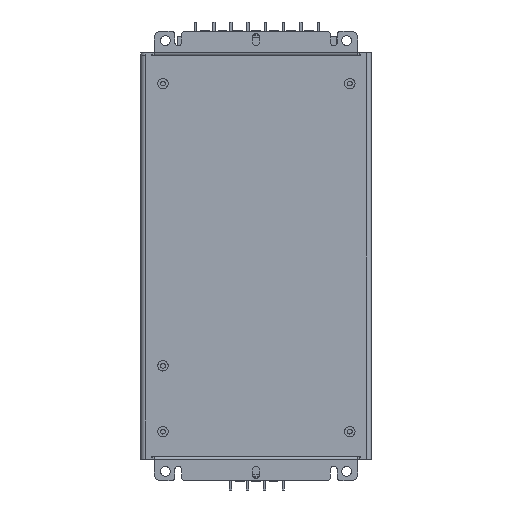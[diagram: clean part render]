
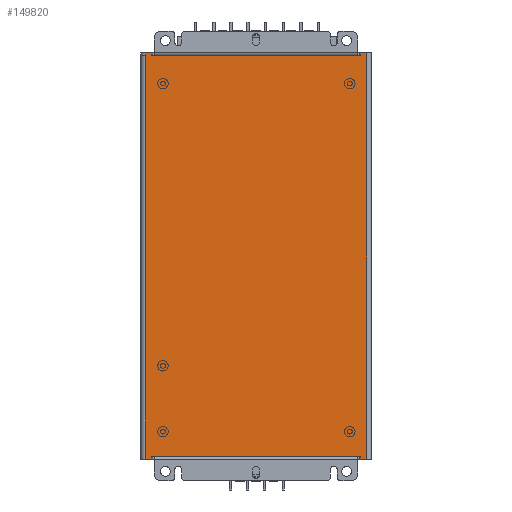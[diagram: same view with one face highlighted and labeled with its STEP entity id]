
A CAD part, front view. The second image highlights one B-rep face of the part: STEP entity #149820.
In plain terms, the highlighted planar face has unit normal (0, -1, 0) as drawn and (1, 0, 0) by its records, which use the part's own axes.
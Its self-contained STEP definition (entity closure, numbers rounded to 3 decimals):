
#147040=CARTESIAN_POINT('',(1801.992,-2342.664,
326.9));
#147050=VERTEX_POINT('',#147040);
#147080=CARTESIAN_POINT('',(1801.992,0.,326.9));
#147090=DIRECTION('',(0.,-1.,0.));
#147100=VECTOR('',#147090,1.);
#147110=LINE('',#147080,#147100);
#147120=CARTESIAN_POINT('',(1801.992,-2472.664,
326.9));
#147130=VERTEX_POINT('',#147120);
#147140=EDGE_CURVE('',#147050,#147130,#147110,.T.);
#148720=CARTESIAN_POINT('',(1801.992,-2336.164,
326.9));
#148730=DIRECTION('',(1.,0.,0.));
#148740=DIRECTION('',(0.,-1.,0.));
#148750=AXIS2_PLACEMENT_3D('',#148720,#148730,#148740);
#148760=PLANE('',#148750);
#148770=CARTESIAN_POINT('',(1801.992,-2350.646,75.3));
#148780=DIRECTION('',(0.,-1.,0.));
#148790=VECTOR('',#148780,1.);
#148800=LINE('',#148770,#148790);
#148810=CARTESIAN_POINT('',(1801.992,-2338.664,75.3));
#148820=VERTEX_POINT('',#148810);
#148830=CARTESIAN_POINT('',(1801.992,-2342.664,75.3));
#148840=VERTEX_POINT('',#148830);
#148850=EDGE_CURVE('',#148820,#148840,#148800,.T.);
#148860=ORIENTED_EDGE('',*,*,#148850,.F.);
#148870=CARTESIAN_POINT('',(1801.992,-2342.664,76.9));
#148880=DIRECTION('',(0.,0.,-1.));
#148890=VECTOR('',#148880,1.);
#148900=LINE('',#148870,#148890);
#148910=CARTESIAN_POINT('',(1801.992,-2342.664,
76.9));
#148920=VERTEX_POINT('',#148910);
#148930=EDGE_CURVE('',#148920,#148840,#148900,.T.);
#148940=ORIENTED_EDGE('',*,*,#148930,.T.);
#148950=CARTESIAN_POINT('',(1801.992,0.,76.9));
#148960=DIRECTION('',(0.,1.,0.));
#148970=VECTOR('',#148960,1.);
#148980=LINE('',#148950,#148970);
#148990=CARTESIAN_POINT('',(1801.992,-2472.664,
76.9));
#149000=VERTEX_POINT('',#148990);
#149010=EDGE_CURVE('',#149000,#148920,#148980,.T.);
#149020=ORIENTED_EDGE('',*,*,#149010,.T.);
#149030=CARTESIAN_POINT('',(1801.992,-2472.664,76.9));
#149040=DIRECTION('',(0.,0.,-1.));
#149050=VECTOR('',#149040,1.);
#149060=LINE('',#149030,#149050);
#149070=CARTESIAN_POINT('',(1801.992,-2472.664,75.3));
#149080=VERTEX_POINT('',#149070);
#149090=EDGE_CURVE('',#149000,#149080,#149060,.T.);
#149100=ORIENTED_EDGE('',*,*,#149090,.F.);
#149110=CARTESIAN_POINT('',(1801.992,-2389.164,75.3));
#149120=DIRECTION('',(0.,-1.,0.));
#149130=VECTOR('',#149120,1.);
#149140=LINE('',#149110,#149130);
#149150=CARTESIAN_POINT('',(1801.992,-2476.664,75.3));
#149160=VERTEX_POINT('',#149150);
#149170=EDGE_CURVE('',#149080,#149160,#149140,.T.);
#149180=ORIENTED_EDGE('',*,*,#149170,.F.);
#149190=CARTESIAN_POINT('',(1801.992,-2476.664,0.));
#149200=DIRECTION('',(0.,0.,1.));
#149210=VECTOR('',#149200,1.);
#149220=LINE('',#149190,#149210);
#149230=CARTESIAN_POINT('',(1801.992,-2476.664,326.9));
#149240=VERTEX_POINT('',#149230);
#149250=EDGE_CURVE('',#149160,#149240,#149220,.T.);
#149260=ORIENTED_EDGE('',*,*,#149250,.F.);
#149270=CARTESIAN_POINT('',(1801.992,0.,326.9));
#149280=DIRECTION('',(0.,1.,0.));
#149290=VECTOR('',#149280,1.);
#149300=LINE('',#149270,#149290);
#149310=CARTESIAN_POINT('',(1801.992,-2476.664,
326.9));
#149320=VERTEX_POINT('',#149310);
#149330=EDGE_CURVE('',#149320,#149240,#149300,.T.);
#149340=ORIENTED_EDGE('',*,*,#149330,.T.);
#149350=CARTESIAN_POINT('',(1801.992,-2476.664,
326.9));
#149360=DIRECTION('',(0.,0.,1.));
#149370=VECTOR('',#149360,1.);
#149380=LINE('',#149350,#149370);
#149390=CARTESIAN_POINT('',(1801.992,-2476.664,
328.5));
#149400=VERTEX_POINT('',#149390);
#149410=EDGE_CURVE('',#149320,#149400,#149380,.T.);
#149420=ORIENTED_EDGE('',*,*,#149410,.F.);
#149430=CARTESIAN_POINT('',(1801.992,-2464.682,
328.5));
#149440=DIRECTION('',(0.,1.,0.));
#149450=VECTOR('',#149440,1.);
#149460=LINE('',#149430,#149450);
#149470=CARTESIAN_POINT('',(1801.992,-2472.664,
328.5));
#149480=VERTEX_POINT('',#149470);
#149490=EDGE_CURVE('',#149400,#149480,#149460,.T.);
#149500=ORIENTED_EDGE('',*,*,#149490,.F.);
#149510=CARTESIAN_POINT('',(1801.992,-2472.664,
326.9));
#149520=DIRECTION('',(0.,0.,1.));
#149530=VECTOR('',#149520,1.);
#149540=LINE('',#149510,#149530);
#149550=EDGE_CURVE('',#147130,#149480,#149540,.T.);
#149560=ORIENTED_EDGE('',*,*,#149550,.T.);
#149570=ORIENTED_EDGE('',*,*,#147140,.T.);
#149580=CARTESIAN_POINT('',(1801.992,-2342.664,
326.9));
#149590=DIRECTION('',(0.,0.,1.));
#149600=VECTOR('',#149590,1.);
#149610=LINE('',#149580,#149600);
#149620=CARTESIAN_POINT('',(1801.992,-2342.664,
328.5));
#149630=VERTEX_POINT('',#149620);
#149640=EDGE_CURVE('',#147050,#149630,#149610,.T.);
#149650=ORIENTED_EDGE('',*,*,#149640,.F.);
#149660=CARTESIAN_POINT('',(1801.992,-2426.164,
328.5));
#149670=DIRECTION('',(0.,1.,0.));
#149680=VECTOR('',#149670,1.);
#149690=LINE('',#149660,#149680);
#149700=CARTESIAN_POINT('',(1801.992,-2338.664,
328.5));
#149710=VERTEX_POINT('',#149700);
#149720=EDGE_CURVE('',#149630,#149710,#149690,.T.);
#149730=ORIENTED_EDGE('',*,*,#149720,.F.);
#149740=CARTESIAN_POINT('',(1801.992,-2338.664,76.9));
#149750=DIRECTION('',(0.,0.,-1.));
#149760=VECTOR('',#149750,1.);
#149770=LINE('',#149740,#149760);
#149780=EDGE_CURVE('',#149710,#148820,#149770,.T.);
#149790=ORIENTED_EDGE('',*,*,#149780,.F.);
#149800=EDGE_LOOP('',(#149790,#149730,#149650,#149570,#149560,#149500,
#149420,#149340,#149260,#149180,#149100,#149020,#148940,#148860));
#149810=FACE_OUTER_BOUND('',#149800,.T.);
#149820=ADVANCED_FACE('',(#149810),#148760,.T.);
